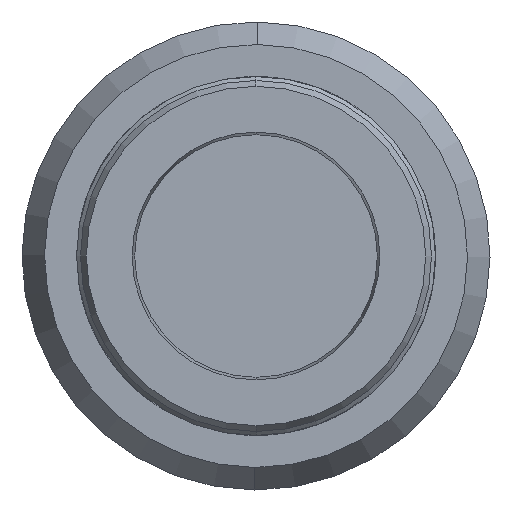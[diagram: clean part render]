
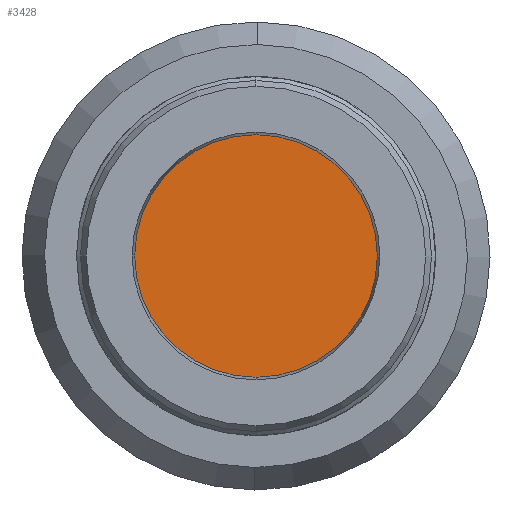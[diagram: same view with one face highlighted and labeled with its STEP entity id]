
A CAD part, front view. The second image highlights one B-rep face of the part: STEP entity #3428.
In plain terms, the highlighted planar face has unit normal (0, -1, 0).
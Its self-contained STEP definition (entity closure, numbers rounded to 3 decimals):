
#218 = AXIS2_PLACEMENT_3D ( 'NONE', #3879, #1874, #4189 ) ;
#252 = AXIS2_PLACEMENT_3D ( 'NONE', #1930, #1914, #1894 ) ;
#591 = ORIENTED_EDGE ( 'NONE', *, *, #3037, .T. ) ;
#652 = CIRCLE ( 'NONE', #218, 15.55 ) ;
#853 = ORIENTED_EDGE ( 'NONE', *, *, #3097, .T. ) ;
#921 = DIRECTION ( 'NONE',  ( 0., 1., 0. ) ) ;
#1711 = VERTEX_POINT ( 'NONE', #3833 ) ;
#1874 = DIRECTION ( 'NONE',  ( 0., -1., 0. ) ) ;
#1894 = DIRECTION ( 'NONE',  ( 0., 0., -1. ) ) ;
#1914 = DIRECTION ( 'NONE',  ( 0., -1., 0. ) ) ;
#1930 = CARTESIAN_POINT ( 'NONE',  ( 0., -75.9, 0. ) ) ;
#2460 = EDGE_LOOP ( 'NONE', ( #591, #853 ) ) ;
#2597 = FACE_OUTER_BOUND ( 'NONE', #2460, .T. ) ;
#2743 = AXIS2_PLACEMENT_3D ( 'NONE', #3026, #921, #3381 ) ;
#3026 = CARTESIAN_POINT ( 'NONE',  ( 0., -75.9, 0. ) ) ;
#3037 = EDGE_CURVE ( 'NONE', #1711, #3762, #3547, .T. ) ;
#3097 = EDGE_CURVE ( 'NONE', #3762, #1711, #652, .T. ) ;
#3194 = CARTESIAN_POINT ( 'NONE',  ( 0., -75.9, 15.55 ) ) ;
#3367 = PLANE ( 'NONE',  #2743 ) ;
#3381 = DIRECTION ( 'NONE',  ( 0., 0., -1. ) ) ;
#3428 = ADVANCED_FACE ( 'NONE', ( #2597 ), #3367, .F. ) ;
#3547 = CIRCLE ( 'NONE', #252, 15.55 ) ;
#3762 = VERTEX_POINT ( 'NONE', #3194 ) ;
#3833 = CARTESIAN_POINT ( 'NONE',  ( 0., -75.9, -15.55 ) ) ;
#3879 = CARTESIAN_POINT ( 'NONE',  ( 0., -75.9, 0. ) ) ;
#4189 = DIRECTION ( 'NONE',  ( 0., 0., -1. ) ) ;
